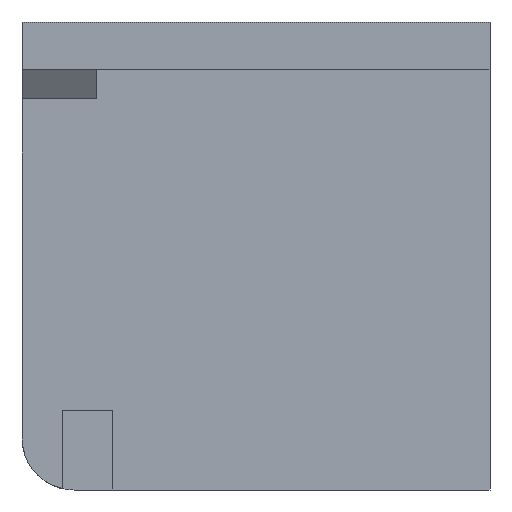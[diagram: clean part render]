
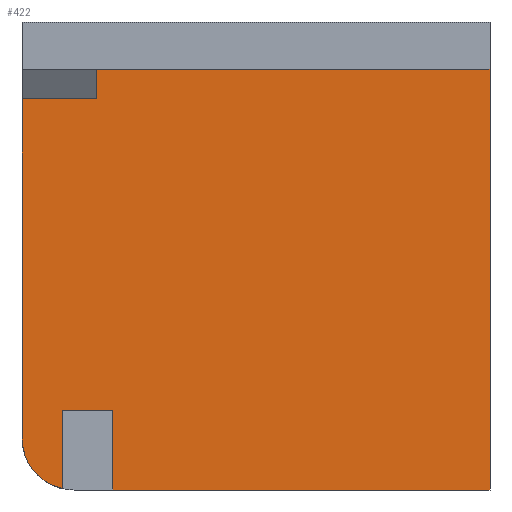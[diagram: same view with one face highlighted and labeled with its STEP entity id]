
A CAD part, front view. The second image highlights one B-rep face of the part: STEP entity #422.
In plain terms, the highlighted planar face has unit normal (0, -1, 0).
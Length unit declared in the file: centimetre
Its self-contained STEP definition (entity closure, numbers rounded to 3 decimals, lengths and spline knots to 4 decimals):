
#57 = VERTEX_POINT ( 'NONE', #1003 ) ;
#62 = ORIENTED_EDGE ( 'NONE', *, *, #1117, .T. ) ;
#95 = AXIS2_PLACEMENT_3D ( 'NONE', #788, #722, #1241 ) ;
#107 = ORIENTED_EDGE ( 'NONE', *, *, #379, .F. ) ;
#119 = AXIS2_PLACEMENT_3D ( 'NONE', #834, #1378, #816 ) ;
#131 = ORIENTED_EDGE ( 'NONE', *, *, #162, .T. ) ;
#137 = LINE ( 'NONE', #1374, #1342 ) ;
#144 = DIRECTION ( 'NONE',  ( 0., 0., -1. ) ) ;
#160 = CARTESIAN_POINT ( 'NONE',  ( 194.2333, 0., 170.6211 ) ) ;
#162 = EDGE_CURVE ( 'NONE', #516, #1346, #1094, .T. ) ;
#167 = VERTEX_POINT ( 'NONE', #908 ) ;
#171 = CARTESIAN_POINT ( 'NONE',  ( 1000., 0., 0. ) ) ;
#197 = DIRECTION ( 'NONE',  ( -1., 0., 0. ) ) ;
#254 = VECTOR ( 'NONE', #1175, 100. ) ;
#291 = VERTEX_POINT ( 'NONE', #416 ) ;
#293 = EDGE_CURVE ( 'NONE', #364, #1404, #866, .T. ) ;
#311 = CARTESIAN_POINT ( 'NONE',  ( 194.2333, 0., 0. ) ) ;
#322 = EDGE_CURVE ( 'NONE', #1086, #167, #571, .T. ) ;
#333 = CARTESIAN_POINT ( 'NONE',  ( 1000., 0., 899.0722 ) ) ;
#364 = VERTEX_POINT ( 'NONE', #698 ) ;
#379 = EDGE_CURVE ( 'NONE', #57, #980, #496, .T. ) ;
#389 = DIRECTION ( 'NONE',  ( 0., 0., 1. ) ) ;
#401 = CARTESIAN_POINT ( 'NONE',  ( 1000., 0., 899.0722 ) ) ;
#411 = ORIENTED_EDGE ( 'NONE', *, *, #537, .F. ) ;
#416 = CARTESIAN_POINT ( 'NONE',  ( 158.8295, 0., 899.0722 ) ) ;
#421 = LINE ( 'NONE', #311, #676 ) ;
#422 = ADVANCED_FACE ( 'NONE', ( #481 ), #923, .F. ) ;
#434 = VECTOR ( 'NONE', #197, 100. ) ;
#437 = ORIENTED_EDGE ( 'NONE', *, *, #1023, .F. ) ;
#461 = ORIENTED_EDGE ( 'NONE', *, *, #979, .F. ) ;
#481 = FACE_OUTER_BOUND ( 'NONE', #1301, .T. ) ;
#496 = LINE ( 'NONE', #587, #254 ) ;
#516 = VERTEX_POINT ( 'NONE', #631 ) ;
#524 = ORIENTED_EDGE ( 'NONE', *, *, #322, .F. ) ;
#537 = EDGE_CURVE ( 'NONE', #364, #1086, #421, .T. ) ;
#562 = CARTESIAN_POINT ( 'NONE',  ( 86.4528, 0., 0. ) ) ;
#571 = LINE ( 'NONE', #1109, #1369 ) ;
#587 = CARTESIAN_POINT ( 'NONE',  ( 158.8295, 0., 835.8012 ) ) ;
#589 = ORIENTED_EDGE ( 'NONE', *, *, #293, .T. ) ;
#631 = CARTESIAN_POINT ( 'NONE',  ( 0., 0., 111.4874 ) ) ;
#636 = ORIENTED_EDGE ( 'NONE', *, *, #1376, .T. ) ;
#649 = DIRECTION ( 'NONE',  ( 0., 0., 1. ) ) ;
#659 = VERTEX_POINT ( 'NONE', #333 ) ;
#676 = VECTOR ( 'NONE', #649, 100. ) ;
#680 = DIRECTION ( 'NONE',  ( 0., 0., -1. ) ) ;
#698 = CARTESIAN_POINT ( 'NONE',  ( 194.2333, 0., 0. ) ) ;
#707 = DIRECTION ( 'NONE',  ( 0., 0., -1. ) ) ;
#722 = DIRECTION ( 'NONE',  ( 0., -1., 0. ) ) ;
#727 = VECTOR ( 'NONE', #389, 100. ) ;
#754 = VECTOR ( 'NONE', #144, 100. ) ;
#788 = CARTESIAN_POINT ( 'NONE',  ( 111.4874, 0., 111.4874 ) ) ;
#806 = LINE ( 'NONE', #812, #754 ) ;
#812 = CARTESIAN_POINT ( 'NONE',  ( 0., 0., 1000. ) ) ;
#816 = DIRECTION ( 'NONE',  ( 0., 0., 1. ) ) ;
#834 = CARTESIAN_POINT ( 'NONE',  ( 0., 0., 1000. ) ) ;
#850 = LINE ( 'NONE', #401, #434 ) ;
#858 = CARTESIAN_POINT ( 'NONE',  ( 0., 0., 0. ) ) ;
#866 = LINE ( 'NONE', #858, #1185 ) ;
#908 = CARTESIAN_POINT ( 'NONE',  ( 86.4528, 0., 170.6211 ) ) ;
#923 = PLANE ( 'NONE',  #119 ) ;
#939 = LINE ( 'NONE', #1389, #727 ) ;
#974 = DIRECTION ( 'NONE',  ( 1., 0., 0. ) ) ;
#975 = CARTESIAN_POINT ( 'NONE',  ( 86.4528, 0., 2.8471 ) ) ;
#979 = EDGE_CURVE ( 'NONE', #167, #1346, #1226, .T. ) ;
#980 = VERTEX_POINT ( 'NONE', #1120 ) ;
#1003 = CARTESIAN_POINT ( 'NONE',  ( 0., 0., 835.8012 ) ) ;
#1023 = EDGE_CURVE ( 'NONE', #659, #1404, #137, .T. ) ;
#1086 = VERTEX_POINT ( 'NONE', #160 ) ;
#1094 = CIRCLE ( 'NONE', #95, 111.4874 ) ;
#1095 = EDGE_CURVE ( 'NONE', #980, #291, #939, .T. ) ;
#1109 = CARTESIAN_POINT ( 'NONE',  ( 86.4528, 0., 170.6211 ) ) ;
#1117 = EDGE_CURVE ( 'NONE', #57, #516, #806, .T. ) ;
#1120 = CARTESIAN_POINT ( 'NONE',  ( 158.8295, 0., 835.8012 ) ) ;
#1128 = DIRECTION ( 'NONE',  ( -1., 0., 0. ) ) ;
#1175 = DIRECTION ( 'NONE',  ( 1., 0., 0. ) ) ;
#1185 = VECTOR ( 'NONE', #974, 100. ) ;
#1226 = LINE ( 'NONE', #562, #1379 ) ;
#1241 = DIRECTION ( 'NONE',  ( 0., 0., 1. ) ) ;
#1301 = EDGE_LOOP ( 'NONE', ( #131, #461, #524, #411, #589, #437, #636, #1388, #107, #62 ) ) ;
#1342 = VECTOR ( 'NONE', #707, 100. ) ;
#1346 = VERTEX_POINT ( 'NONE', #975 ) ;
#1369 = VECTOR ( 'NONE', #1128, 100. ) ;
#1374 = CARTESIAN_POINT ( 'NONE',  ( 1000., 0., 1000. ) ) ;
#1376 = EDGE_CURVE ( 'NONE', #659, #291, #850, .T. ) ;
#1378 = DIRECTION ( 'NONE',  ( 0., 1., 0. ) ) ;
#1379 = VECTOR ( 'NONE', #680, 100. ) ;
#1388 = ORIENTED_EDGE ( 'NONE', *, *, #1095, .F. ) ;
#1389 = CARTESIAN_POINT ( 'NONE',  ( 158.8295, 0., 835.8012 ) ) ;
#1404 = VERTEX_POINT ( 'NONE', #171 ) ;
